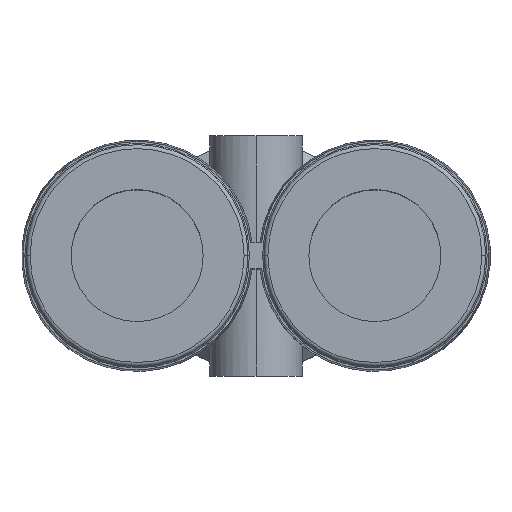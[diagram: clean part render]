
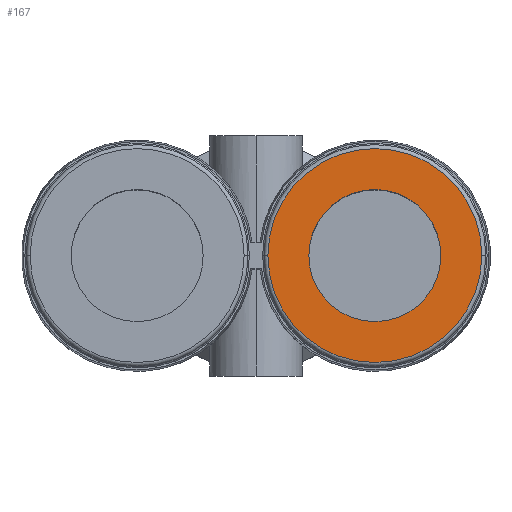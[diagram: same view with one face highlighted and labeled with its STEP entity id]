
A CAD part, top view. The second image highlights one B-rep face of the part: STEP entity #167.
In plain terms, the highlighted planar face has unit normal (0, 0, 1).
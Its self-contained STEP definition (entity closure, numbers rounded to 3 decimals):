
#42=FACE_BOUND('',#2470,.T.);
#111=PLANE('',#3532);
#167=ADVANCED_FACE('PY10_',(#351,#42),#111,.T.);
#351=FACE_OUTER_BOUND('',#2469,.T.);
#963=ORIENTED_EDGE('',*,*,#1525,.T.);
#964=ORIENTED_EDGE('',*,*,#1526,.T.);
#965=ORIENTED_EDGE('',*,*,#1527,.F.);
#966=ORIENTED_EDGE('',*,*,#1528,.F.);
#1525=EDGE_CURVE('272',#2318,#2319,#2100,.T.);
#1526=EDGE_CURVE('273',#2319,#2318,#2101,.T.);
#1527=EDGE_CURVE('238',#2320,#2321,#2102,.T.);
#1528=EDGE_CURVE('237',#2321,#2320,#2103,.T.);
#2100=CIRCLE('',#3528,8.1);
#2101=CIRCLE('',#3529,8.1);
#2102=CIRCLE('',#3530,5.);
#2103=CIRCLE('',#3531,5.);
#2318=VERTEX_POINT('103',#3042);
#2319=VERTEX_POINT('194',#3043);
#2320=VERTEX_POINT('182',#3046);
#2321=VERTEX_POINT('104',#3047);
#2469=EDGE_LOOP('',(#963,#964));
#2470=EDGE_LOOP('',(#965,#966));
#3042=CARTESIAN_POINT('',(0.9,0.,19.5));
#3043=CARTESIAN_POINT('',(17.1,0.,19.5));
#3044=CARTESIAN_POINT('',(9.,0.,19.5));
#3045=CARTESIAN_POINT('',(9.,0.,19.5));
#3046=CARTESIAN_POINT('',(14.,0.,19.5));
#3047=CARTESIAN_POINT('',(4.,0.,19.5));
#3048=CARTESIAN_POINT('',(9.,0.,19.5));
#3049=CARTESIAN_POINT('',(9.,0.,19.5));
#3050=CARTESIAN_POINT('',(0.4,8.6,19.5));
#3528=AXIS2_PLACEMENT_3D('',#3044,#3720,#3754);
#3529=AXIS2_PLACEMENT_3D('',#3045,#3720,#3721);
#3530=AXIS2_PLACEMENT_3D('',#3048,#3720,#3721);
#3531=AXIS2_PLACEMENT_3D('',#3049,#3720,#3754);
#3532=AXIS2_PLACEMENT_3D('',#3050,#3720,#3730);
#3720=DIRECTION('',(0.,0.,1.));
#3721=DIRECTION('',(1.,0.,0.));
#3730=DIRECTION('',(0.,-1.,0.));
#3754=DIRECTION('',(-1.,0.,0.));
